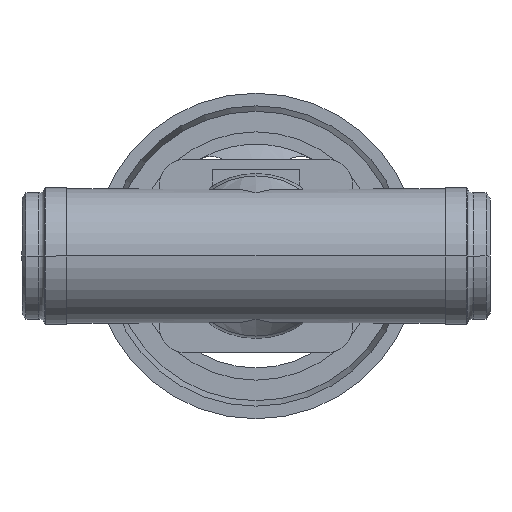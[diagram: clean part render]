
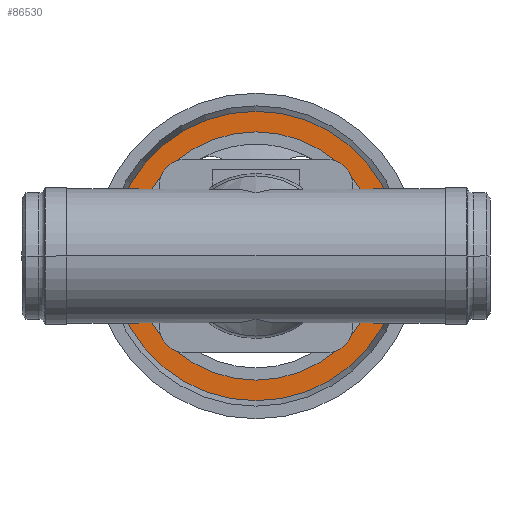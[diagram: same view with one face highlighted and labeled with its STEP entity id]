
A CAD part, front view. The second image highlights one B-rep face of the part: STEP entity #86530.
In plain terms, the highlighted planar face has unit normal (0, -1, 0).
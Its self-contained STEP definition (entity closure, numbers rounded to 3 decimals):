
#85980=CARTESIAN_POINT('',(186.109,307.9,0.)
);
#85990=VERTEX_POINT('',#85980);
#86020=CARTESIAN_POINT('',(115.,307.9,0.));
#86030=DIRECTION('',(0.,1.,0.));
#86040=DIRECTION('',(-1.,0.,0.));
#86050=AXIS2_PLACEMENT_3D('',#86020,#86030,#86040);
#86060=CIRCLE('',#86050,71.109);
#86070=CARTESIAN_POINT('',(43.891,307.9,0.));
#86080=VERTEX_POINT('',#86070);
#86090=EDGE_CURVE('',#86080,#85990,#86060,.T.);
#86280=CARTESIAN_POINT('',(48.946,307.9,0.))
;
#86290=DIRECTION('',(0.,-1.,0.));
#86300=DIRECTION('',(1.,0.,0.));
#86310=AXIS2_PLACEMENT_3D('',#86280,#86290,#86300);
#86320=PLANE('',#86310);
#86330=EDGE_CURVE('',#85990,#86080,#86060,.T.);
#86340=ORIENTED_EDGE('',*,*,#86330,.F.);
#86350=ORIENTED_EDGE('',*,*,#86090,.F.);
#86360=EDGE_LOOP('',(#86350,#86340));
#86370=FACE_OUTER_BOUND('',#86360,.T.);
#86380=CARTESIAN_POINT('',(115.,307.9,0.));
#86390=DIRECTION('',(0.,1.,0.));
#86400=DIRECTION('',(-1.,0.,0.));
#86410=AXIS2_PLACEMENT_3D('',#86380,#86390,#86400);
#86420=CIRCLE('',#86410,61.);
#86430=CARTESIAN_POINT('',(54.,307.9,0.));
#86440=VERTEX_POINT('',#86430);
#86450=CARTESIAN_POINT('',(176.,307.9,0.));
#86460=VERTEX_POINT('',#86450);
#86470=EDGE_CURVE('',#86440,#86460,#86420,.T.);
#86480=ORIENTED_EDGE('',*,*,#86470,.T.);
#86490=EDGE_CURVE('',#86460,#86440,#86420,.T.);
#86500=ORIENTED_EDGE('',*,*,#86490,.T.);
#86510=EDGE_LOOP('',(#86500,#86480));
#86520=FACE_BOUND('',#86510,.T.);
#86530=ADVANCED_FACE('',(#86370,#86520),#86320,.T.);
